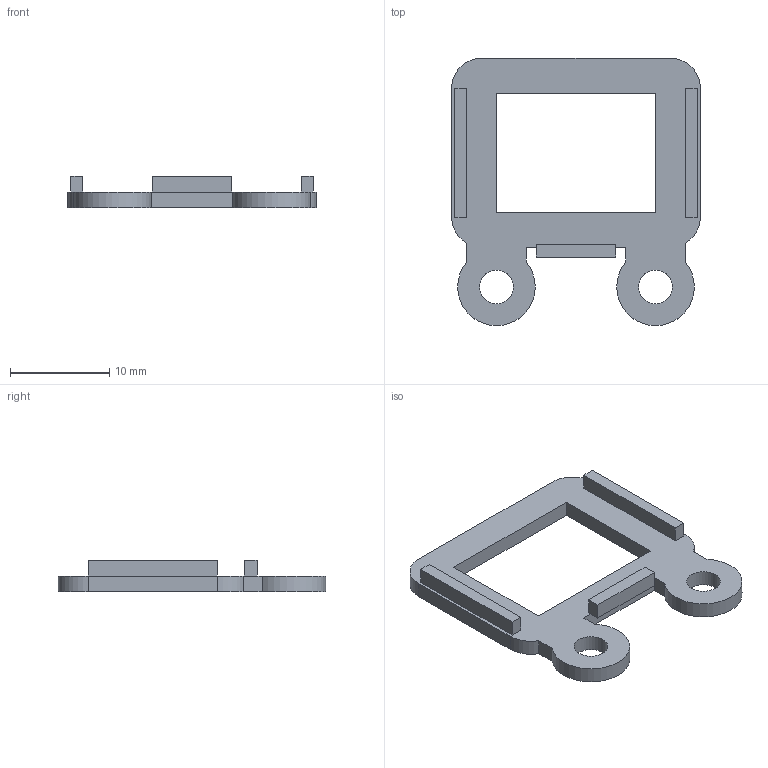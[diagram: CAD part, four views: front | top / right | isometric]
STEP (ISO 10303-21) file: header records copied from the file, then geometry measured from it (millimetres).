
FILE_DESCRIPTION(('Open CASCADE Model'),'2;1');
FILE_NAME('Open CASCADE Shape Model','2026-10-01T12:35:22',('Author'),( 'Open CASCADE'),'Open CASCADE STEP processor 7.8','Open CASCADE 7.8' ,'Unknown');
FILE_SCHEMA(('AUTOMOTIVE_DESIGN { 1 0 10303 214 1 1 1 1 }'));
Length unit declared in the file: millimetre
Products named in the file (2): P12_USB_inlet_carrier; P12_USB_inlet_carrier_solid
Assembly tree (1 placements, depth 2):
  P12_USB_inlet_carrier
    P12_USB_inlet_carrier_solid
Bounding box: 25 x 26.9 x 3.2 mm (x, y, z)
Volume: 641.6 mm3; surface area: 1159.8 mm2
Topology: 1 solids, 1 shells, 38 faces, 100 edges, 66 vertices
Faces by surface type: plane 30, cylinder 8
Full cylindrical faces by diameter (mm): 3.4 x2
Entity records: 2533 total; most frequent: CARTESIAN_POINT 458, DIRECTION 384, LINE 264, VECTOR 264, ORIENTED_EDGE 200, PCURVE 200, DEFINITIONAL_REPRESENTATION 200, EDGE_CURVE 100
